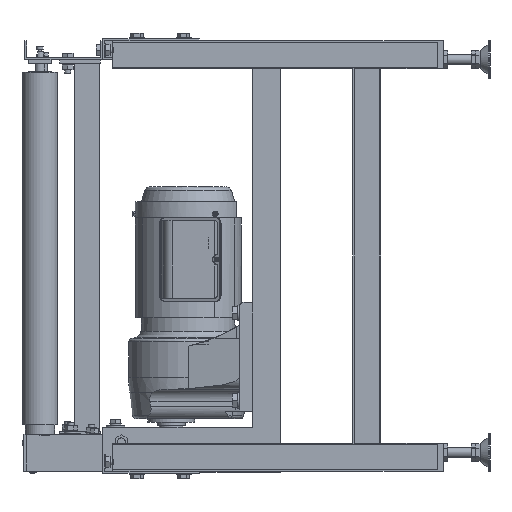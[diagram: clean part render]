
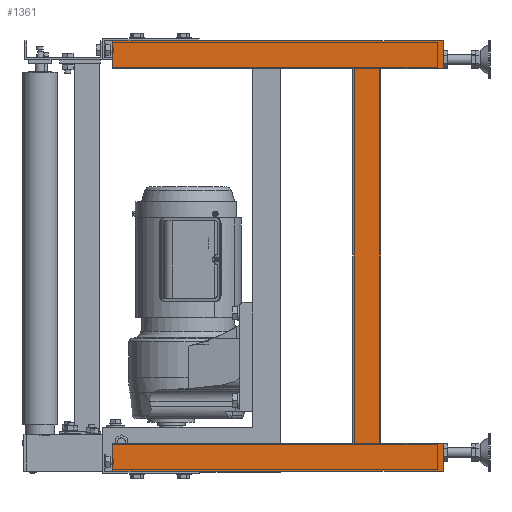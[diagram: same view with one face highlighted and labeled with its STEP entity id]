
A CAD part, left-side view. The second image highlights one B-rep face of the part: STEP entity #1361.
In plain terms, the highlighted planar face has unit normal (-1, 0, 0).
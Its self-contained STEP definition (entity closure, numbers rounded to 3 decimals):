
#1361=ADVANCED_FACE('',(#6020),#6019,.T.);
#6019=PLANE('',#40011);
#6020=FACE_OUTER_BOUND('',#40012,.T.);
#40008=CARTESIAN_POINT('',(62.5,-685.,-355.));
#40009=DIRECTION('',(-1.,0.,0.));
#40010=DIRECTION('',(0.,0.,1.));
#40011=AXIS2_PLACEMENT_3D('',#40008,#40009,#40010);
#40012=EDGE_LOOP('',(#58290,#58291,#58292,#58293,#58294,#58295,#58296,#58297,#58298,#58299,#58300,#58301,#58302,#58303,#58304,#58305,#58306,#58307));
#58290=ORIENTED_EDGE('',*,*,#74671,.T.);
#58291=ORIENTED_EDGE('',*,*,#74753,.T.);
#58292=ORIENTED_EDGE('',*,*,#74754,.F.);
#58293=ORIENTED_EDGE('',*,*,#74755,.T.);
#58294=ORIENTED_EDGE('',*,*,#74747,.T.);
#58295=ORIENTED_EDGE('',*,*,#74744,.F.);
#58296=ORIENTED_EDGE('',*,*,#74555,.T.);
#58297=ORIENTED_EDGE('',*,*,#74756,.T.);
#58298=ORIENTED_EDGE('',*,*,#74565,.T.);
#58299=ORIENTED_EDGE('',*,*,#74757,.T.);
#58300=ORIENTED_EDGE('',*,*,#74749,.T.);
#58301=ORIENTED_EDGE('',*,*,#74758,.T.);
#58302=ORIENTED_EDGE('',*,*,#74759,.F.);
#58303=ORIENTED_EDGE('',*,*,#74760,.F.);
#58304=ORIENTED_EDGE('',*,*,#74761,.F.);
#58305=ORIENTED_EDGE('',*,*,#74762,.T.);
#58306=ORIENTED_EDGE('',*,*,#74674,.T.);
#58307=ORIENTED_EDGE('',*,*,#74763,.T.);
#74555=EDGE_CURVE('',#84029,#84030,#84031,.T.);
#74565=EDGE_CURVE('',#84099,#84092,#84100,.T.);
#74671=EDGE_CURVE('',#84802,#84795,#84803,.T.);
#74674=EDGE_CURVE('',#84781,#84816,#84823,.T.);
#74744=EDGE_CURVE('',#84029,#85215,#85285,.T.);
#74747=EDGE_CURVE('',#85292,#85215,#85305,.T.);
#74749=EDGE_CURVE('',#85319,#85311,#85320,.T.);
#74753=EDGE_CURVE('',#84795,#85346,#85347,.T.);
#74754=EDGE_CURVE('',#85353,#85346,#85354,.T.);
#74755=EDGE_CURVE('',#85353,#85292,#85360,.T.);
#74756=EDGE_CURVE('',#84030,#84099,#85366,.T.);
#74757=EDGE_CURVE('',#84092,#85319,#85372,.T.);
#74758=EDGE_CURVE('',#85311,#85378,#85379,.T.);
#74759=EDGE_CURVE('',#85385,#85378,#85386,.T.);
#74760=EDGE_CURVE('',#85392,#85385,#85393,.T.);
#74761=EDGE_CURVE('',#85399,#85392,#85400,.T.);
#74762=EDGE_CURVE('',#85399,#84781,#85406,.T.);
#74763=EDGE_CURVE('',#84816,#84802,#85412,.T.);
#84029=VERTEX_POINT('',#139637);
#84030=VERTEX_POINT('',#139638);
#84031=LINE('',#139639,#139640);
#84092=VERTEX_POINT('',#139675);
#84099=VERTEX_POINT('',#139679);
#84100=LINE('',#139680,#139681);
#84781=VERTEX_POINT('',#140085);
#84795=VERTEX_POINT('',#140093);
#84802=VERTEX_POINT('',#140097);
#84803=LINE('',#140098,#140099);
#84816=VERTEX_POINT('',#140106);
#84823=LINE('',#140111,#140112);
#85215=VERTEX_POINT('',#140334);
#85285=LINE('',#140374,#140375);
#85292=VERTEX_POINT('',#140378);
#85305=LINE('',#140385,#140386);
#85311=VERTEX_POINT('',#140388);
#85319=VERTEX_POINT('',#140393);
#85320=LINE('',#140394,#140395);
#85346=VERTEX_POINT('',#140409);
#85347=LINE('',#140410,#140411);
#85353=VERTEX_POINT('',#140413);
#85354=LINE('',#140414,#140415);
#85360=LINE('',#140417,#140418);
#85366=LINE('',#140420,#140421);
#85372=LINE('',#140423,#140424);
#85378=VERTEX_POINT('',#140426);
#85379=LINE('',#140427,#140428);
#85385=VERTEX_POINT('',#140430);
#85386=LINE('',#140431,#140432);
#85392=VERTEX_POINT('',#140434);
#85393=LINE('',#140435,#140436);
#85399=VERTEX_POINT('',#140438);
#85400=LINE('',#140439,#140440);
#85406=LINE('',#140442,#140443);
#85412=LINE('',#140445,#140446);
#139637=CARTESIAN_POINT('',(62.5,-144.,-345.));
#139638=CARTESIAN_POINT('',(62.5,-187.768,-345.));
#139639=CARTESIAN_POINT('',(62.5,-144.,-345.));
#139640=VECTOR('',#139641,43.768);
#139641=DIRECTION('',(0.,-1.,0.));
#139675=CARTESIAN_POINT('',(62.5,-284.,-345.));
#139679=CARTESIAN_POINT('',(62.5,-199.548,-345.));
#139680=CARTESIAN_POINT('',(62.5,-199.548,-345.));
#139681=VECTOR('',#139682,84.452);
#139682=DIRECTION('',(0.,-1.,0.));
#140085=CARTESIAN_POINT('',(62.5,-284.,345.));
#140093=CARTESIAN_POINT('',(62.5,-144.,345.));
#140097=CARTESIAN_POINT('',(62.5,-187.768,345.));
#140098=CARTESIAN_POINT('',(62.5,-187.768,345.));
#140099=VECTOR('',#140100,43.768);
#140100=DIRECTION('',(0.,1.,0.));
#140106=CARTESIAN_POINT('',(62.5,-199.548,345.));
#140111=CARTESIAN_POINT('',(62.5,-284.,345.));
#140112=VECTOR('',#140113,84.452);
#140113=DIRECTION('',(0.,1.,0.));
#140334=CARTESIAN_POINT('',(62.5,-144.,-300.));
#140374=CARTESIAN_POINT('',(62.5,-144.,-345.));
#140375=VECTOR('',#140376,45.);
#140376=DIRECTION('',(0.,0.,1.));
#140378=CARTESIAN_POINT('',(62.5,-530.,-300.));
#140385=CARTESIAN_POINT('',(62.5,-530.,-300.));
#140386=VECTOR('',#140387,386.);
#140387=DIRECTION('',(0.,1.,0.));
#140388=CARTESIAN_POINT('',(62.5,-675.,-300.));
#140393=CARTESIAN_POINT('',(62.5,-675.,-345.));
#140394=CARTESIAN_POINT('',(62.5,-675.,-345.));
#140395=VECTOR('',#140396,45.);
#140396=DIRECTION('',(0.,0.,1.));
#140409=CARTESIAN_POINT('',(62.5,-144.,300.));
#140410=CARTESIAN_POINT('',(62.5,-144.,345.));
#140411=VECTOR('',#140412,45.);
#140412=DIRECTION('',(0.,0.,-1.));
#140413=CARTESIAN_POINT('',(62.5,-530.,300.));
#140414=CARTESIAN_POINT('',(62.5,-530.,300.));
#140415=VECTOR('',#140416,386.);
#140416=DIRECTION('',(0.,1.,0.));
#140417=CARTESIAN_POINT('',(62.5,-530.,300.));
#140418=VECTOR('',#140419,600.);
#140419=DIRECTION('',(0.,0.,-1.));
#140420=CARTESIAN_POINT('',(62.5,-187.768,-345.));
#140421=VECTOR('',#140422,11.78);
#140422=DIRECTION('',(0.,-1.,0.));
#140423=CARTESIAN_POINT('',(62.5,-284.,-345.));
#140424=VECTOR('',#140425,391.);
#140425=DIRECTION('',(0.,-1.,0.));
#140426=CARTESIAN_POINT('',(62.5,-575.,-300.));
#140427=CARTESIAN_POINT('',(62.5,-675.,-300.));
#140428=VECTOR('',#140429,100.);
#140429=DIRECTION('',(0.,1.,0.));
#140430=CARTESIAN_POINT('',(62.5,-575.,300.));
#140431=CARTESIAN_POINT('',(62.5,-575.,300.));
#140432=VECTOR('',#140433,600.);
#140433=DIRECTION('',(0.,0.,-1.));
#140434=CARTESIAN_POINT('',(62.5,-675.,300.));
#140435=CARTESIAN_POINT('',(62.5,-675.,300.));
#140436=VECTOR('',#140437,100.);
#140437=DIRECTION('',(0.,1.,0.));
#140438=CARTESIAN_POINT('',(62.5,-675.,345.));
#140439=CARTESIAN_POINT('',(62.5,-675.,345.));
#140440=VECTOR('',#140441,45.);
#140441=DIRECTION('',(0.,0.,-1.));
#140442=CARTESIAN_POINT('',(62.5,-675.,345.));
#140443=VECTOR('',#140444,391.);
#140444=DIRECTION('',(0.,1.,0.));
#140445=CARTESIAN_POINT('',(62.5,-199.548,345.));
#140446=VECTOR('',#140447,11.78);
#140447=DIRECTION('',(0.,1.,0.));
